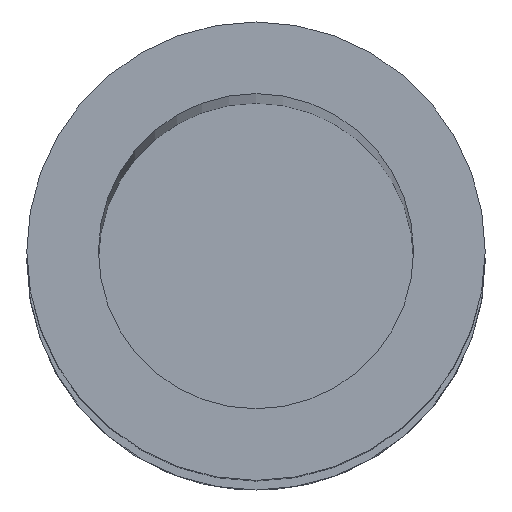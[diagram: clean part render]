
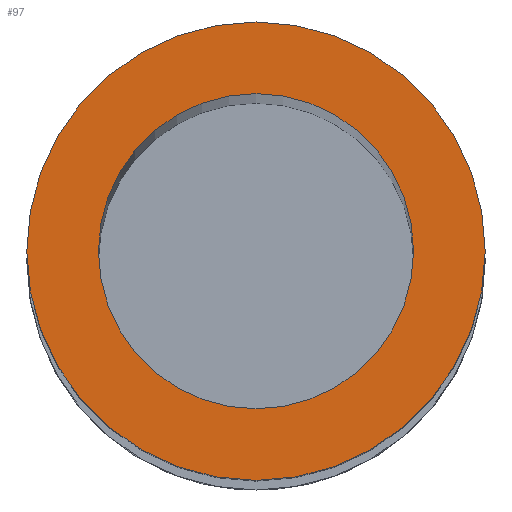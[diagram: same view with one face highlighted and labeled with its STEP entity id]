
A CAD part, top view. The second image highlights one B-rep face of the part: STEP entity #97.
In plain terms, the highlighted planar face has unit normal (0, 0, 1).
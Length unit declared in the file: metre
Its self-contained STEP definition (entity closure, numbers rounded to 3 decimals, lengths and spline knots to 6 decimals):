
#97=ADVANCED_FACE('0:129',(#193,#194),#195,.T.);
#193=FACE_BOUND('',#291,.T.);
#194=FACE_OUTER_BOUND('',#292,.T.);
#195=PLANE('',#293);
#291=EDGE_LOOP('',(#461,#462));
#292=EDGE_LOOP('',(#463,#464));
#293=AXIS2_PLACEMENT_3D('',#465,#466,#467);
#461=ORIENTED_EDGE('',*,*,#592,.T.);
#462=ORIENTED_EDGE('',*,*,#604,.T.);
#463=ORIENTED_EDGE('',*,*,#567,.F.);
#464=ORIENTED_EDGE('',*,*,#602,.F.);
#465=CARTESIAN_POINT('',(0.,0.,0.119));
#466=DIRECTION('',(0.0,0.0,1.0));
#467=DIRECTION('',(1.0,0.0,0.0));
#567=EDGE_CURVE('',#676,#672,#678,.F.);
#592=EDGE_CURVE('',#715,#713,#716,.T.);
#602=EDGE_CURVE('',#672,#676,#728,.F.);
#604=EDGE_CURVE('',#713,#715,#730,.T.);
#672=VERTEX_POINT('',#814);
#676=VERTEX_POINT('',#819);
#678=CIRCLE('',#822,0.008);
#713=VERTEX_POINT('',#860);
#715=VERTEX_POINT('',#863);
#716=CIRCLE('',#864,0.0055);
#728=CIRCLE('',#880,0.008);
#730=CIRCLE('',#882,0.0055);
#814=CARTESIAN_POINT('',(0.00789,0.000133,0.119));
#819=CARTESIAN_POINT('',(-0.00811,0.000133,0.119));
#822=AXIS2_PLACEMENT_3D('',#967,#968,#969);
#860=CARTESIAN_POINT('',(0.00539,0.000133,0.119));
#863=CARTESIAN_POINT('',(-0.00561,0.000133,0.119));
#864=AXIS2_PLACEMENT_3D('',#1013,#1014,#1015);
#880=AXIS2_PLACEMENT_3D('',#1023,#1024,#1025);
#882=AXIS2_PLACEMENT_3D('',#1026,#1027,#1028);
#967=CARTESIAN_POINT('',(-0.00011,0.000133,0.119));
#968=DIRECTION('',(0.0,0.0,1.0));
#969=DIRECTION('',(1.0,0.0,0.0));
#1013=CARTESIAN_POINT('',(-0.00011,0.000133,0.119));
#1014=DIRECTION('',(0.0,0.0,-1.0));
#1015=DIRECTION('',(1.0,0.0,0.0));
#1023=CARTESIAN_POINT('',(-0.00011,0.000133,0.119));
#1024=DIRECTION('',(0.0,0.0,1.0));
#1025=DIRECTION('',(1.0,0.0,0.0));
#1026=CARTESIAN_POINT('',(-0.00011,0.000133,0.119));
#1027=DIRECTION('',(0.0,0.0,-1.0));
#1028=DIRECTION('',(1.0,0.0,0.0));
